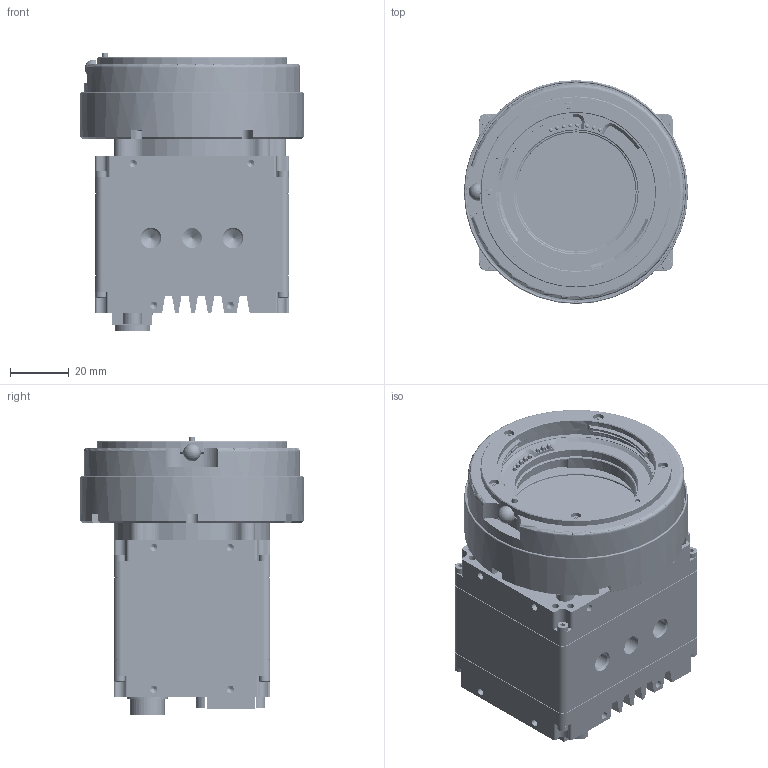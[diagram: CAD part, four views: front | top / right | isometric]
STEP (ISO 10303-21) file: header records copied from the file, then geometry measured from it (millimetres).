
FILE_DESCRIPTION (( 'STEP AP203' ), '1' );
FILE_NAME ('GT LF IMX EF-MOUNT COLOR CAMERA.STEP', '2019-11-08T15:15:14', ( '' ), ( '' ), 'SwSTEP 2.0', 'SolidWorks 2018', '' );
FILE_SCHEMA (( 'CONFIG_CONTROL_DESIGN' ));
Products named in the file (1): GT LF IMX EF-MOUNT COLOR CAMERA
Bounding box: 76.2 x 76.2 x 94.74 mm (x, y, z)
Volume: 142613 mm3; surface area: 124258.4 mm2
Topology: 379 solids, 379 shells, 24345 faces, 60294 edges, 39668 vertices
Faces by surface type: plane 16570, cylinder 5612, torus 1042, bspline 569, cone 384, sphere 168
Entity records: 747660 total; most frequent: CARTESIAN_POINT 163145, ORIENTED_EDGE 119684, DIRECTION 119419, EDGE_CURVE 59842, LINE 43997, VECTOR 43997, VERTEX_POINT 39498, AXIS2_PLACEMENT_3D 37711
